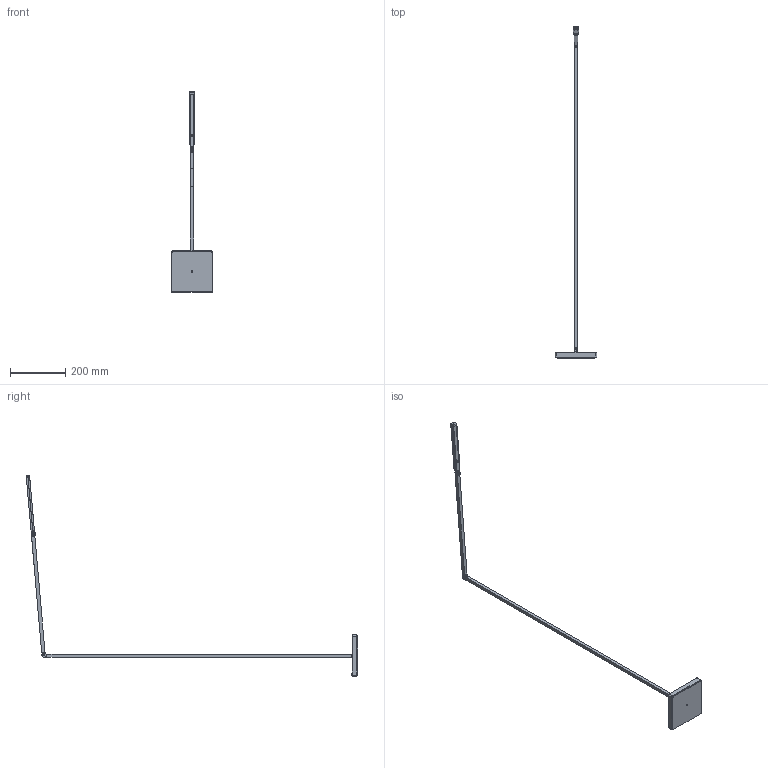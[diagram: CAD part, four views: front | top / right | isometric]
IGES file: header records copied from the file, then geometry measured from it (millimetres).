
Start section: SolidWorks IGES file using analytic representation for surfaces
Global section: file name: C:\Users\MarcoErba\Desktop\untitled reading 3d\UNTITLED READING LINEAR.IGS; native system: SolidWorks 2016; preprocessor: SolidWorks 2016; author: MarcoErba; date: 220608.145705; units: millimetre
Bounding box: 150.31 x 1196.91 x 725.4 mm (x, y, z)
Surface area: 210379 mm2 (no closed solid volume)
Topology: 0 solids, 0 shells, 1373 faces, 13725 edges, 13721 vertices
Faces by surface type: bspline 976, revolution 397
